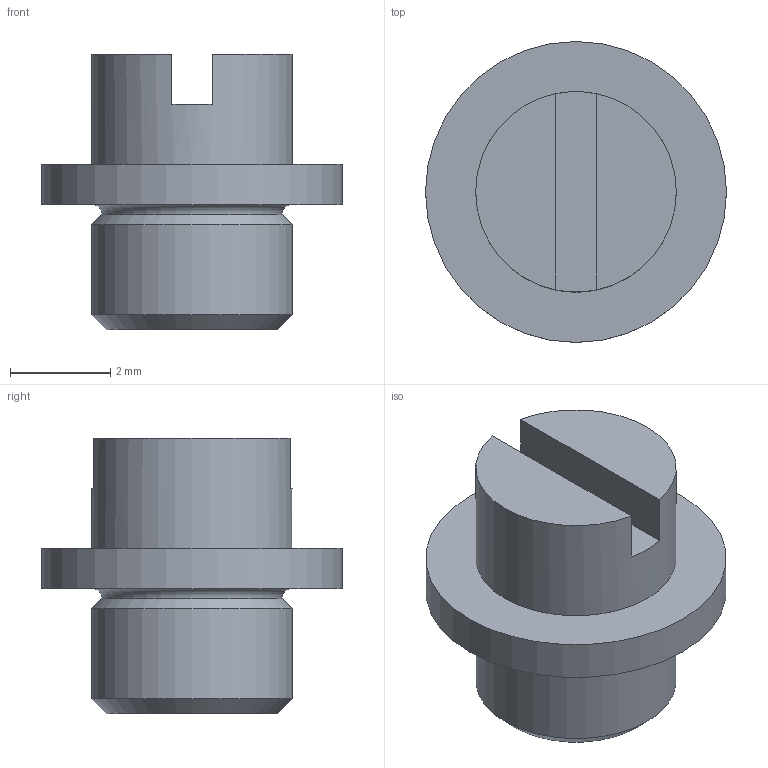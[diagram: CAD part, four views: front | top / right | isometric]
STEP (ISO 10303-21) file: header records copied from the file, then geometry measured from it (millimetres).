
FILE_DESCRIPTION(/* description */ (''),/* implementation_level */ '2;1');
FILE_NAME(/* name */ 'Y:\2_OpticalHard\01_Stags\GOHT\60\GOHT-60B60\GOHT-AP-10.stp',/* time_stamp */ '2016-08-17T13:11:30+09:00',/* author */ ('e.nonaka'),/* organization */ (''),/* preprocessor_version */ 'ST-DEVELOPER v16.1',/* originating_system */ 'Autodesk Inventor 2016',/* authorisation */ '');
FILE_SCHEMA (('AUTOMOTIVE_DESIGN { 1 0 10303 214 3 1 1 }'));
Length unit declared in the file: millimetre
Products named in the file (1): GOHT-AP-10
Bounding box: 6 x 6 x 5.5 mm (x, y, z)
Volume: 77.3 mm3; surface area: 136.6 mm2
Topology: 1 solids, 1 shells, 14 faces, 29 edges, 19 vertices
Faces by surface type: plane 8, cylinder 3, cone 2, torus 1
Full cylindrical faces by diameter (mm): 4 x2, 6 x1
Entity records: 365 total; most frequent: DIRECTION 62, CARTESIAN_POINT 51, ORIENTED_EDGE 40, AXIS2_PLACEMENT_3D 27, EDGE_LOOP 22, EDGE_CURVE 20, VERTEX_POINT 16, STYLED_ITEM 15
